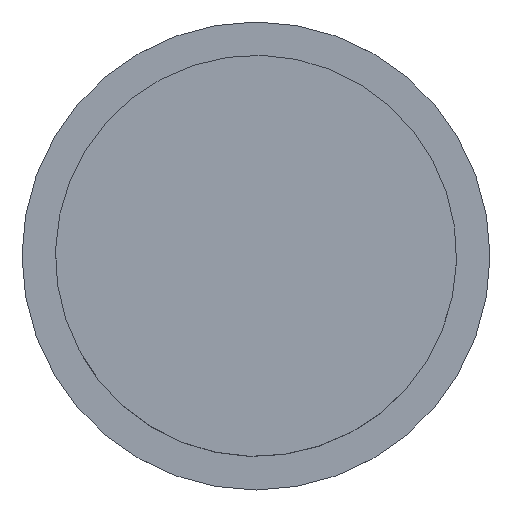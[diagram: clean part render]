
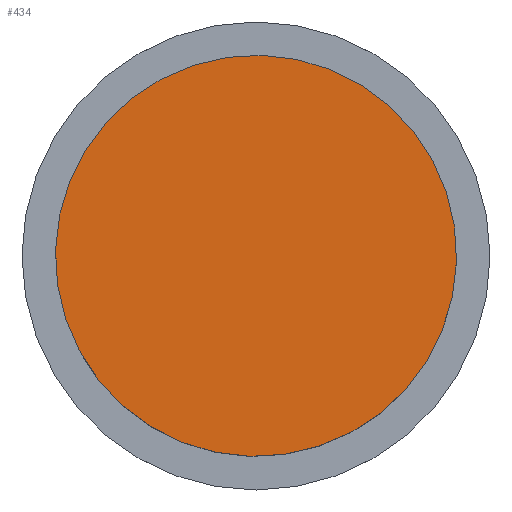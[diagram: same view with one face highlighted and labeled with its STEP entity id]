
A CAD part, top view. The second image highlights one B-rep face of the part: STEP entity #434.
In plain terms, the highlighted planar face has unit normal (0, 0, 1).
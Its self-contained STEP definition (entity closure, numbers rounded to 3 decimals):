
#77=PLANE('',#517);
#107=FACE_OUTER_BOUND('',#148,.T.);
#148=EDGE_LOOP('',(#376));
#187=CIRCLE('',#518,60.);
#225=VERTEX_POINT('',#886);
#277=EDGE_CURVE('',#225,#225,#187,.T.);
#376=ORIENTED_EDGE('',*,*,#277,.T.);
#434=ADVANCED_FACE('',(#107),#77,.F.);
#517=AXIS2_PLACEMENT_3D('',#885,#657,#658);
#518=AXIS2_PLACEMENT_3D('',#887,#659,#660);
#657=DIRECTION('center_axis',(0.,0.,
-1.));
#658=DIRECTION('ref_axis',(0.37,0.929,0.));
#659=DIRECTION('center_axis',(0.,0.,
1.));
#660=DIRECTION('ref_axis',(-0.37,-0.929,0.));
#885=CARTESIAN_POINT('Origin',(0.,0.,
1807.05));
#886=CARTESIAN_POINT('',(22.221,55.733,1807.05));
#887=CARTESIAN_POINT('Origin',(0.,0.,
1807.05));
